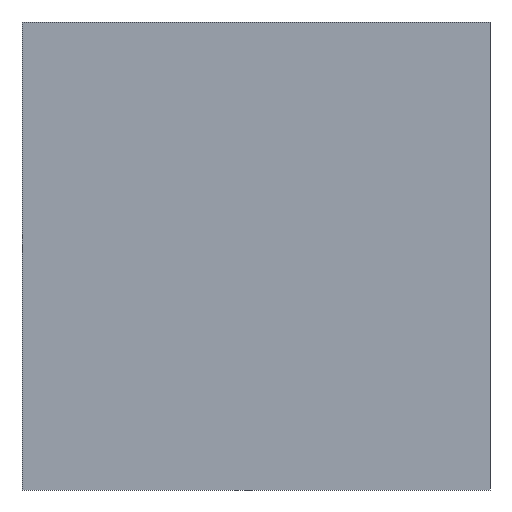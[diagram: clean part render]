
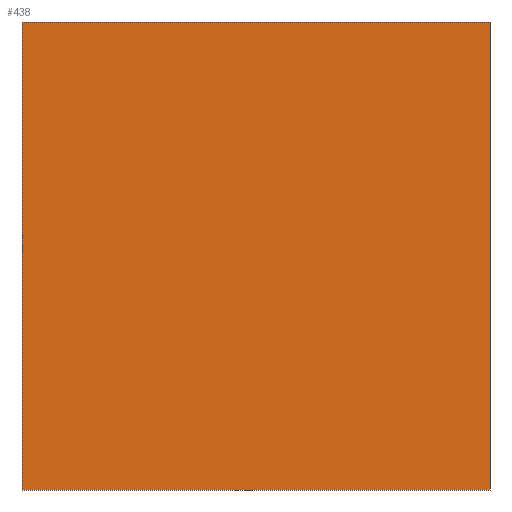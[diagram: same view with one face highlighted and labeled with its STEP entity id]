
A CAD part, front view. The second image highlights one B-rep face of the part: STEP entity #438.
In plain terms, the highlighted planar face has unit normal (0, -1, 0).
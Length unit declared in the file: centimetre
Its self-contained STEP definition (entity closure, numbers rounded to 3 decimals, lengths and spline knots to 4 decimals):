
#27 = EDGE_LOOP ( 'NONE', ( #232, #179, #194, #737 ) ) ;
#33 = VECTOR ( 'NONE', #473, 100. ) ;
#44 = DIRECTION ( 'NONE',  ( 1., 0., 0. ) ) ;
#64 = VERTEX_POINT ( 'NONE', #310 ) ;
#96 = CARTESIAN_POINT ( 'NONE',  ( 0., 0., 1000. ) ) ;
#99 = DIRECTION ( 'NONE',  ( 0., 0., 1. ) ) ;
#167 = DIRECTION ( 'NONE',  ( 0., 1., 0. ) ) ;
#179 = ORIENTED_EDGE ( 'NONE', *, *, #556, .F. ) ;
#194 = ORIENTED_EDGE ( 'NONE', *, *, #729, .F. ) ;
#197 = CARTESIAN_POINT ( 'NONE',  ( 0., 0., 0. ) ) ;
#220 = DIRECTION ( 'NONE',  ( 1., 0., 0. ) ) ;
#232 = ORIENTED_EDGE ( 'NONE', *, *, #746, .T. ) ;
#298 = DIRECTION ( 'NONE',  ( 0., 0., -1. ) ) ;
#299 = VECTOR ( 'NONE', #298, 100. ) ;
#310 = CARTESIAN_POINT ( 'NONE',  ( 0., 0., 1000. ) ) ;
#342 = VERTEX_POINT ( 'NONE', #593 ) ;
#359 = CARTESIAN_POINT ( 'NONE',  ( 0., 0., 1000. ) ) ;
#411 = FACE_OUTER_BOUND ( 'NONE', #27, .T. ) ;
#414 = LINE ( 'NONE', #668, #299 ) ;
#438 = ADVANCED_FACE ( 'NONE', ( #411 ), #663, .F. ) ;
#451 = CARTESIAN_POINT ( 'NONE',  ( 1000., 0., 0. ) ) ;
#473 = DIRECTION ( 'NONE',  ( 0., 0., -1. ) ) ;
#556 = EDGE_CURVE ( 'NONE', #342, #682, #779, .T. ) ;
#581 = VECTOR ( 'NONE', #44, 100. ) ;
#587 = AXIS2_PLACEMENT_3D ( 'NONE', #96, #167, #99 ) ;
#593 = CARTESIAN_POINT ( 'NONE',  ( 1000., 0., 1000. ) ) ;
#659 = CARTESIAN_POINT ( 'NONE',  ( 1000., 0., 1000. ) ) ;
#663 = PLANE ( 'NONE',  #587 ) ;
#666 = CARTESIAN_POINT ( 'NONE',  ( 0., 0., 0. ) ) ;
#668 = CARTESIAN_POINT ( 'NONE',  ( 0., 0., 1000. ) ) ;
#682 = VERTEX_POINT ( 'NONE', #451 ) ;
#683 = VERTEX_POINT ( 'NONE', #197 ) ;
#715 = EDGE_CURVE ( 'NONE', #64, #683, #414, .T. ) ;
#729 = EDGE_CURVE ( 'NONE', #64, #342, #784, .T. ) ;
#737 = ORIENTED_EDGE ( 'NONE', *, *, #715, .T. ) ;
#746 = EDGE_CURVE ( 'NONE', #683, #682, #793, .T. ) ;
#750 = VECTOR ( 'NONE', #220, 100. ) ;
#779 = LINE ( 'NONE', #659, #33 ) ;
#784 = LINE ( 'NONE', #359, #581 ) ;
#793 = LINE ( 'NONE', #666, #750 ) ;
